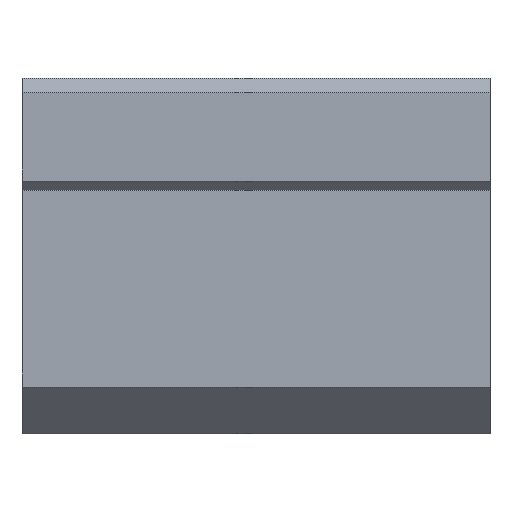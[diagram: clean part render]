
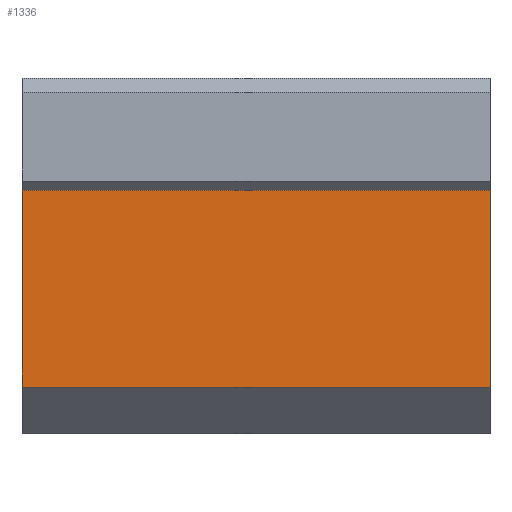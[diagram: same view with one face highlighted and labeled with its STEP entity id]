
A CAD part, front view. The second image highlights one B-rep face of the part: STEP entity #1336.
In plain terms, the highlighted planar face has unit normal (0, -1, 0).
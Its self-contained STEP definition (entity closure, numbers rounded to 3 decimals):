
#1273=CARTESIAN_POINT('',(50.0,-24.,-10.));
#1274=VERTEX_POINT('',#1273);
#1281=CARTESIAN_POINT('',(0.0,-24.,-10.));
#1282=VERTEX_POINT('',#1281);
#1283=CARTESIAN_POINT('',(50.0,-24.,-10.));
#1284=DIRECTION('',(-1.0,0.0,0.0));
#1285=VECTOR('',#1284,50.0);
#1286=LINE('',#1283,#1285);
#1287=EDGE_CURVE('',#1274,#1282,#1286,.T.);
#1306=CARTESIAN_POINT('',(0.0,-24.,-15.));
#1307=DIRECTION('',(0.0,-1.0,0.0));
#1308=DIRECTION('',(0.0,0.0,-1.0));
#1309=AXIS2_PLACEMENT_3D('',#1306,#1307,#1308);
#1310=PLANE('',#1309);
#1311=ORIENTED_EDGE('',*,*,#1287,.F.);
#1312=CARTESIAN_POINT('',(50.0,-24.,11.0));
#1313=VERTEX_POINT('',#1312);
#1314=CARTESIAN_POINT('',(50.0,-24.,-10.));
#1315=DIRECTION('',(0.0,0.0,1.0));
#1316=VECTOR('',#1315,21.0);
#1317=LINE('',#1314,#1316);
#1318=EDGE_CURVE('',#1274,#1313,#1317,.T.);
#1319=ORIENTED_EDGE('',*,*,#1318,.T.);
#1320=CARTESIAN_POINT('',(0.0,-24.,11.0));
#1321=VERTEX_POINT('',#1320);
#1322=CARTESIAN_POINT('',(0.0,-24.,11.0));
#1323=DIRECTION('',(1.0,0.0,0.0));
#1324=VECTOR('',#1323,50.0);
#1325=LINE('',#1322,#1324);
#1326=EDGE_CURVE('',#1321,#1313,#1325,.T.);
#1327=ORIENTED_EDGE('',*,*,#1326,.F.);
#1328=CARTESIAN_POINT('',(0.0,-24.,11.0));
#1329=DIRECTION('',(0.0,0.0,-1.0));
#1330=VECTOR('',#1329,21.0);
#1331=LINE('',#1328,#1330);
#1332=EDGE_CURVE('',#1321,#1282,#1331,.T.);
#1333=ORIENTED_EDGE('',*,*,#1332,.T.);
#1334=EDGE_LOOP('',(#1311,#1319,#1327,#1333));
#1335=FACE_OUTER_BOUND('',#1334,.T.);
#1336=ADVANCED_FACE('',(#1335),#1310,.T.);
